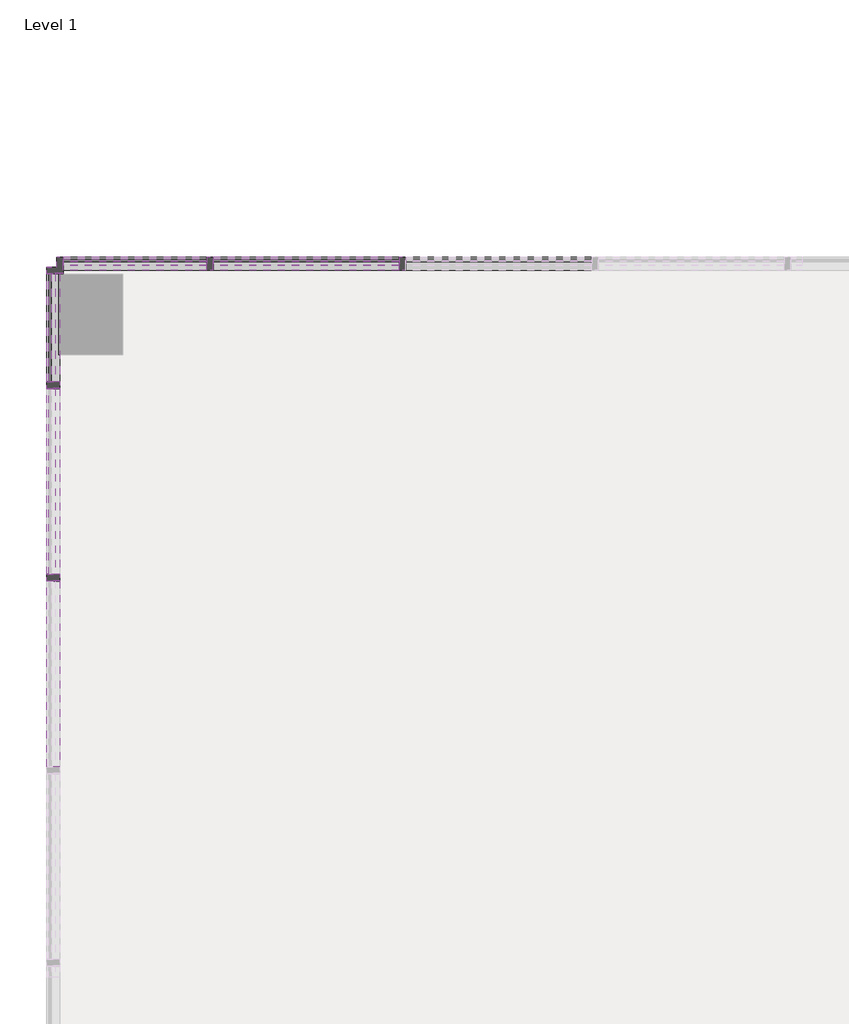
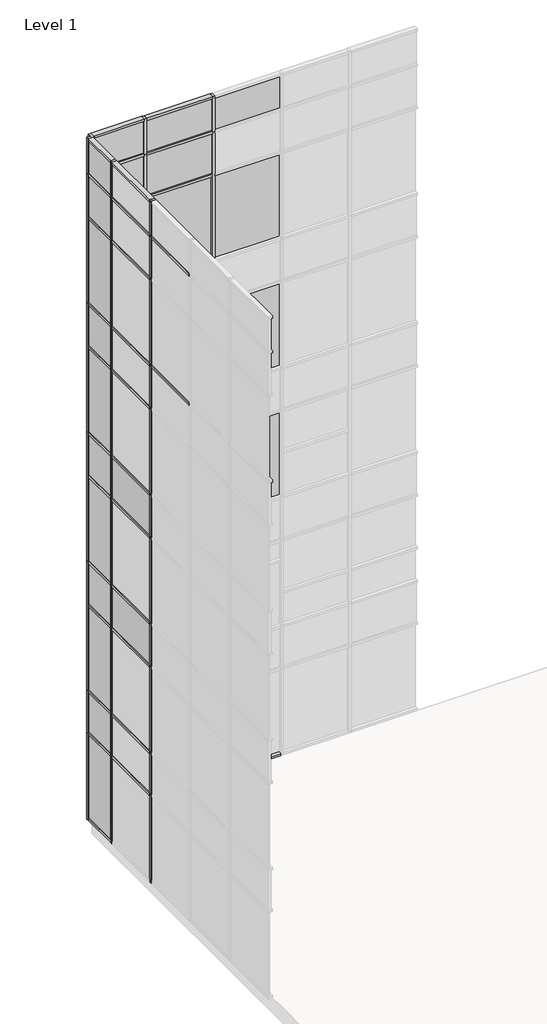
# One storey, part 10 of 23: 84 members, 40 plates.
"""IFC4 building model written with IfcOpenShell, lengths in millimetres."""

from ifc_helpers import new_model, si_unit, origin, place, context, project, spatial, transform, mapped, element, save
from components import member_2b49869a, member_f92b8aa2, member_810865a4, member_f0fea5a5, member_6d5c3e5e, member_9764dd38, member_79ceace6, member_b5f2627a, member_2a656dd3, member_4a582d1b, member_69e02c7a, member_ea83204a, member_2d9278dd, member_12374bc9, system_panel_glazed_14c75400, system_panel_glazed_7d142148, system_panel_glazed_725bf07f, system_panel_glazed_cda0cb40, system_panel_glazed_3870392c, system_panel_solid_5dfe6f83, system_panel_solid_e25e2004, system_panel_solid_b7551183, system_panel_solid_743f3f24, system_panel_solid_cf5446f1, system_panel_solid_9f856546, system_panel_solid_5118485c, system_panel_solid_8dfd6666, system_panel_solid_bf438204

model = new_model("IFC4")

# Units and contexts
model_context = context("Model", 3, world=origin())
ifc_project = project(units=[si_unit("LENGTHUNIT", "METRE", prefix="MILLI")], contexts=[model_context])

# Site, building, storey
site = spatial("IfcSite", under=ifc_project)
building = spatial("IfcBuilding", under=site)
storey = spatial("IfcBuildingStorey", under=building, Name="Level 1", Elevation=0.0)

# Members
placement = place(None, origin())
member_shape = member_2b49869a(model_context)
element("IfcMember", 1, ObjectType="Rectangular Mullion : 2.5\" x 5\" rectangular", at=placement, inside=storey, context=model_context, shape_type="MappedRepresentation", body=[
    mapped(member_shape, transform((-65405.8623649, 10017.7896508, 2438.4), x_axis=(1.0, 0.0, 0.0), y_axis=(0.0, -1.0, 0.0), z_axis=(0.0, 0.0, -1.0))),
])
element("IfcMember", 2, ObjectType="Rectangular Mullion : 2.5\" x 5\" rectangular", at=placement, inside=storey, context=model_context, shape_type="MappedRepresentation", body=[
    mapped(member_shape, transform((-67234.6623649, 10017.7896508, 2438.4), x_axis=(1.0, 0.0, 0.0), y_axis=(0.0, -1.0, 0.0), z_axis=(0.0, 0.0, -1.0))),
])
member_2_shape = member_f92b8aa2(model_context)
element("IfcMember", 3, ObjectType="Rectangular Mullion : 2.5\" x 5\" rectangular", at=placement, inside=storey, context=model_context, shape_type="MappedRepresentation", body=[
    mapped(member_2_shape, transform((-65405.8623649, 10017.7896508, 18288.0), x_axis=(1.0, 0.0, 0.0), y_axis=(0.0, -1.0, 0.0), z_axis=(0.0, 0.0, -1.0))),
])
element("IfcMember", 4, ObjectType="Rectangular Mullion : 2.5\" x 5\" rectangular", at=placement, inside=storey, context=model_context, shape_type="MappedRepresentation", body=[
    mapped(member_2_shape, transform((-67234.6623649, 10017.7896508, 18288.0), x_axis=(1.0, 0.0, 0.0), y_axis=(0.0, -1.0, 0.0), z_axis=(0.0, 0.0, -1.0))),
])
element("IfcMember", 5, ObjectType="Rectangular Mullion : 2.5\" x 5\" rectangular", at=placement, inside=storey, context=model_context, shape_type="MappedRepresentation", body=[
    mapped(member_2_shape, transform((-68724.2599961, 7033.2896508, 18288.0), x_axis=(0.0, 1.0, 0.0), y_axis=(1.0, 0.0, 0.0), z_axis=(0.0, 0.0, -1.0))),
])
element("IfcMember", 6, ObjectType="Rectangular Mullion : 2.5\" x 5\" rectangular", at=placement, inside=storey, context=model_context, shape_type="MappedRepresentation", body=[
    mapped(member_2_shape, transform((-68724.2599961, 8862.0896508, 18288.0), x_axis=(0.0, 1.0, 0.0), y_axis=(1.0, 0.0, 0.0), z_axis=(0.0, 0.0, -1.0))),
])
member_3_shape = member_810865a4(model_context)
element("IfcMember", 7, ObjectType="Rectangular Mullion : 2.5\" x 5\" rectangular", at=placement, inside=storey, context=model_context, shape_type="MappedRepresentation", body=[
    mapped(member_3_shape, transform((-65405.8623649, 10017.7896508, 14630.4), x_axis=(1.0, 0.0, 0.0), y_axis=(0.0, -1.0, 0.0), z_axis=(0.0, 0.0, -1.0))),
])
element("IfcMember", 8, ObjectType="Rectangular Mullion : 2.5\" x 5\" rectangular", at=placement, inside=storey, context=model_context, shape_type="MappedRepresentation", body=[
    mapped(member_3_shape, transform((-65405.8623649, 10017.7896508, 10972.8), x_axis=(1.0, 0.0, 0.0), y_axis=(0.0, -1.0, 0.0), z_axis=(0.0, 0.0, -1.0))),
])
element("IfcMember", 9, ObjectType="Rectangular Mullion : 2.5\" x 5\" rectangular", at=placement, inside=storey, context=model_context, shape_type="MappedRepresentation", body=[
    mapped(member_3_shape, transform((-65405.8623649, 10017.7896508, 7315.2), x_axis=(1.0, 0.0, 0.0), y_axis=(0.0, -1.0, 0.0), z_axis=(0.0, 0.0, -1.0))),
])
element("IfcMember", 10, ObjectType="Rectangular Mullion : 2.5\" x 5\" rectangular", at=placement, inside=storey, context=model_context, shape_type="MappedRepresentation", body=[
    mapped(member_3_shape, transform((-65405.8623649, 10017.7896508, 3657.6), x_axis=(1.0, 0.0, 0.0), y_axis=(0.0, -1.0, 0.0), z_axis=(0.0, 0.0, -1.0))),
])
element("IfcMember", 11, ObjectType="Rectangular Mullion : 2.5\" x 5\" rectangular", at=placement, inside=storey, context=model_context, shape_type="MappedRepresentation", body=[
    mapped(member_3_shape, transform((-67234.6623649, 10017.7896508, 14630.4), x_axis=(1.0, 0.0, 0.0), y_axis=(0.0, -1.0, 0.0), z_axis=(0.0, 0.0, -1.0))),
])
element("IfcMember", 12, ObjectType="Rectangular Mullion : 2.5\" x 5\" rectangular", at=placement, inside=storey, context=model_context, shape_type="MappedRepresentation", body=[
    mapped(member_3_shape, transform((-67234.6623649, 10017.7896508, 10972.8), x_axis=(1.0, 0.0, 0.0), y_axis=(0.0, -1.0, 0.0), z_axis=(0.0, 0.0, -1.0))),
])
element("IfcMember", 13, ObjectType="Rectangular Mullion : 2.5\" x 5\" rectangular", at=placement, inside=storey, context=model_context, shape_type="MappedRepresentation", body=[
    mapped(member_3_shape, transform((-67234.6623649, 10017.7896508, 7315.2), x_axis=(1.0, 0.0, 0.0), y_axis=(0.0, -1.0, 0.0), z_axis=(0.0, 0.0, -1.0))),
])
element("IfcMember", 14, ObjectType="Rectangular Mullion : 2.5\" x 5\" rectangular", at=placement, inside=storey, context=model_context, shape_type="MappedRepresentation", body=[
    mapped(member_3_shape, transform((-67234.6623649, 10017.7896508, 3657.6), x_axis=(1.0, 0.0, 0.0), y_axis=(0.0, -1.0, 0.0), z_axis=(0.0, 0.0, -1.0))),
])
element("IfcMember", 15, ObjectType="Rectangular Mullion : 2.5\" x 5\" rectangular", at=placement, inside=storey, context=model_context, shape_type="MappedRepresentation", body=[
    mapped(member_3_shape, transform((-68724.2599961, 7033.2896508, 3657.6), x_axis=(0.0, 1.0, 0.0), y_axis=(1.0, 0.0, 0.0), z_axis=(0.0, 0.0, -1.0))),
])
element("IfcMember", 16, ObjectType="Rectangular Mullion : 2.5\" x 5\" rectangular", at=placement, inside=storey, context=model_context, shape_type="MappedRepresentation", body=[
    mapped(member_3_shape, transform((-68724.2599961, 8862.0896508, 3657.6), x_axis=(0.0, 1.0, 0.0), y_axis=(1.0, 0.0, 0.0), z_axis=(0.0, 0.0, -1.0))),
])
element("IfcMember", 17, ObjectType="Rectangular Mullion : 2.5\" x 5\" rectangular", at=placement, inside=storey, context=model_context, shape_type="MappedRepresentation", body=[
    mapped(member_3_shape, transform((-68724.2599961, 7033.2896508, 7315.2), x_axis=(0.0, 1.0, 0.0), y_axis=(1.0, 0.0, 0.0), z_axis=(0.0, 0.0, -1.0))),
])
element("IfcMember", 18, ObjectType="Rectangular Mullion : 2.5\" x 5\" rectangular", at=placement, inside=storey, context=model_context, shape_type="MappedRepresentation", body=[
    mapped(member_3_shape, transform((-68724.2599961, 8862.0896508, 7315.2), x_axis=(0.0, 1.0, 0.0), y_axis=(1.0, 0.0, 0.0), z_axis=(0.0, 0.0, -1.0))),
])
element("IfcMember", 19, ObjectType="Rectangular Mullion : 2.5\" x 5\" rectangular", at=placement, inside=storey, context=model_context, shape_type="MappedRepresentation", body=[
    mapped(member_3_shape, transform((-68724.2599961, 7033.2896508, 10972.8), x_axis=(0.0, 1.0, 0.0), y_axis=(1.0, 0.0, 0.0), z_axis=(0.0, 0.0, -1.0))),
])
element("IfcMember", 20, ObjectType="Rectangular Mullion : 2.5\" x 5\" rectangular", at=placement, inside=storey, context=model_context, shape_type="MappedRepresentation", body=[
    mapped(member_3_shape, transform((-68724.2599961, 8862.0896508, 10972.8), x_axis=(0.0, 1.0, 0.0), y_axis=(1.0, 0.0, 0.0), z_axis=(0.0, 0.0, -1.0))),
])
element("IfcMember", 21, ObjectType="Rectangular Mullion : 2.5\" x 5\" rectangular", at=placement, inside=storey, context=model_context, shape_type="MappedRepresentation", body=[
    mapped(member_3_shape, transform((-68724.2599961, 7033.2896508, 14630.4), x_axis=(0.0, 1.0, 0.0), y_axis=(1.0, 0.0, 0.0), z_axis=(0.0, 0.0, -1.0))),
])
element("IfcMember", 22, ObjectType="Rectangular Mullion : 2.5\" x 5\" rectangular", at=placement, inside=storey, context=model_context, shape_type="MappedRepresentation", body=[
    mapped(member_3_shape, transform((-68724.2599961, 8862.0896508, 14630.4), x_axis=(0.0, 1.0, 0.0), y_axis=(1.0, 0.0, 0.0), z_axis=(0.0, 0.0, -1.0))),
])
member_4_shape = member_f0fea5a5(model_context)
element("IfcMember", 23, ObjectType="Rectangular Mullion : 2.5\" x 5\" rectangular", at=placement, inside=storey, context=model_context, shape_type="MappedRepresentation", body=[
    mapped(member_4_shape, transform((-65405.8623649, 10017.7896508, 0.0), x_axis=(1.0, 0.0, 0.0), y_axis=(0.0, -1.0, 0.0), z_axis=(0.0, 0.0, -1.0))),
])
element("IfcMember", 24, ObjectType="Rectangular Mullion : 2.5\" x 5\" rectangular", at=placement, inside=storey, context=model_context, shape_type="MappedRepresentation", body=[
    mapped(member_4_shape, transform((-67234.6623649, 10017.7896508, 0.0), x_axis=(1.0, 0.0, 0.0), y_axis=(0.0, -1.0, 0.0), z_axis=(0.0, 0.0, -1.0))),
])
member_5_shape = member_6d5c3e5e(model_context)
element("IfcMember", 25, ObjectType="Rectangular Mullion : 2.5\" x 5\" rectangular", at=placement, inside=storey, context=model_context, shape_type="MappedRepresentation", body=[
    mapped(member_5_shape, transform((-65437.6123649, 10017.7896508, 19304.0), x_axis=(0.0, 0.0, 1.0), y_axis=(0.0, -1.0, 0.0), z_axis=(1.0, 0.0, 0.0))),
])
element("IfcMember", 26, ObjectType="Rectangular Mullion : 2.5\" x 5\" rectangular", at=placement, inside=storey, context=model_context, shape_type="MappedRepresentation", body=[
    mapped(member_5_shape, transform((-68724.2599961, 8830.3396508, 19304.0), x_axis=(0.0, 0.0, 1.0), y_axis=(1.0, 0.0, 0.0), z_axis=(0.0, 1.0, 0.0))),
])
member_6_shape = member_9764dd38(model_context)
element("IfcMember", 27, ObjectType="Rectangular Mullion : 2.5\" x 5\" rectangular", at=placement, inside=storey, context=model_context, shape_type="MappedRepresentation", body=[
    mapped(member_6_shape, transform((-65437.6123649, 10017.7896508, 17068.8), x_axis=(0.0, 0.0, 1.0), y_axis=(0.0, -1.0, 0.0), z_axis=(1.0, 0.0, 0.0))),
])
element("IfcMember", 28, ObjectType="Rectangular Mullion : 2.5\" x 5\" rectangular", at=placement, inside=storey, context=model_context, shape_type="MappedRepresentation", body=[
    mapped(member_6_shape, transform((-65437.6123649, 10017.7896508, 13411.2), x_axis=(0.0, 0.0, 1.0), y_axis=(0.0, -1.0, 0.0), z_axis=(1.0, 0.0, 0.0))),
])
element("IfcMember", 29, ObjectType="Rectangular Mullion : 2.5\" x 5\" rectangular", at=placement, inside=storey, context=model_context, shape_type="MappedRepresentation", body=[
    mapped(member_6_shape, transform((-65437.6123649, 10017.7896508, 9753.6), x_axis=(0.0, 0.0, 1.0), y_axis=(0.0, -1.0, 0.0), z_axis=(1.0, 0.0, 0.0))),
])
element("IfcMember", 30, ObjectType="Rectangular Mullion : 2.5\" x 5\" rectangular", at=placement, inside=storey, context=model_context, shape_type="MappedRepresentation", body=[
    mapped(member_6_shape, transform((-65437.6123649, 10017.7896508, 6096.0), x_axis=(0.0, 0.0, 1.0), y_axis=(0.0, -1.0, 0.0), z_axis=(1.0, 0.0, 0.0))),
])
element("IfcMember", 31, ObjectType="Rectangular Mullion : 2.5\" x 5\" rectangular", at=placement, inside=storey, context=model_context, shape_type="MappedRepresentation", body=[
    mapped(member_6_shape, transform((-65437.6123649, 10017.7896508, 2470.15), x_axis=(0.0, 0.0, 1.0), y_axis=(0.0, -1.0, 0.0), z_axis=(1.0, 0.0, 0.0))),
])
element("IfcMember", 32, ObjectType="Rectangular Mullion : 2.5\" x 5\" rectangular", at=placement, inside=storey, context=model_context, shape_type="MappedRepresentation", body=[
    mapped(member_6_shape, transform((-68724.2599961, 8830.3396508, 17068.8), x_axis=(0.0, 0.0, 1.0), y_axis=(1.0, 0.0, 0.0), z_axis=(0.0, 1.0, 0.0))),
])
element("IfcMember", 33, ObjectType="Rectangular Mullion : 2.5\" x 5\" rectangular", at=placement, inside=storey, context=model_context, shape_type="MappedRepresentation", body=[
    mapped(member_6_shape, transform((-68724.2599961, 8830.3396508, 13411.2), x_axis=(0.0, 0.0, 1.0), y_axis=(1.0, 0.0, 0.0), z_axis=(0.0, 1.0, 0.0))),
])
element("IfcMember", 34, ObjectType="Rectangular Mullion : 2.5\" x 5\" rectangular", at=placement, inside=storey, context=model_context, shape_type="MappedRepresentation", body=[
    mapped(member_6_shape, transform((-68724.2599961, 8830.3396508, 9753.6), x_axis=(0.0, 0.0, 1.0), y_axis=(1.0, 0.0, 0.0), z_axis=(0.0, 1.0, 0.0))),
])
element("IfcMember", 35, ObjectType="Rectangular Mullion : 2.5\" x 5\" rectangular", at=placement, inside=storey, context=model_context, shape_type="MappedRepresentation", body=[
    mapped(member_6_shape, transform((-68724.2599961, 8830.3396508, 6096.0), x_axis=(0.0, 0.0, 1.0), y_axis=(1.0, 0.0, 0.0), z_axis=(0.0, 1.0, 0.0))),
])
element("IfcMember", 36, ObjectType="Rectangular Mullion : 2.5\" x 5\" rectangular", at=placement, inside=storey, context=model_context, shape_type="MappedRepresentation", body=[
    mapped(member_6_shape, transform((-68724.2599961, 8830.3396508, 2470.15), x_axis=(0.0, 0.0, 1.0), y_axis=(1.0, 0.0, 0.0), z_axis=(0.0, 1.0, 0.0))),
])
element("IfcMember", 37, ObjectType="Rectangular Mullion : 2.5\" x 5\" rectangular", at=placement, inside=storey, context=model_context, shape_type="MappedRepresentation", body=[
    mapped(member_6_shape, transform((-65437.6123649, 10017.7896508, 4603.75), x_axis=(0.0, 0.0, 1.0), y_axis=(0.0, -1.0, 0.0), z_axis=(1.0, 0.0, 0.0))),
])
element("IfcMember", 38, ObjectType="Rectangular Mullion : 2.5\" x 5\" rectangular", at=placement, inside=storey, context=model_context, shape_type="MappedRepresentation", body=[
    mapped(member_3_shape, transform((-68724.2599961, 7033.2896508, 0.0), x_axis=(0.0, 1.0, 0.0), y_axis=(1.0, 0.0, 0.0), z_axis=(0.0, 0.0, -1.0))),
])
element("IfcMember", 39, ObjectType="Rectangular Mullion : 2.5\" x 5\" rectangular", at=placement, inside=storey, context=model_context, shape_type="MappedRepresentation", body=[
    mapped(member_3_shape, transform((-68724.2599961, 8862.0896508, 0.0), x_axis=(0.0, 1.0, 0.0), y_axis=(1.0, 0.0, 0.0), z_axis=(0.0, 0.0, -1.0))),
])
element("IfcMember", 40, ObjectType="Rectangular Mullion : 2.5\" x 5\" rectangular", at=placement, inside=storey, context=model_context, shape_type="MappedRepresentation", body=[
    mapped(member_5_shape, transform((-65374.1123649, 10017.7896508, 0.0), x_axis=(0.0, 0.0, -1.0), y_axis=(0.0, -1.0, 0.0), z_axis=(-1.0, 0.0, 0.0))),
])
element("IfcMember", 41, ObjectType="Rectangular Mullion : 2.5\" x 5\" rectangular", at=placement, inside=storey, context=model_context, shape_type="MappedRepresentation", body=[
    mapped(member_5_shape, transform((-67202.9123649, 10017.7896508, 0.0), x_axis=(0.0, 0.0, -1.0), y_axis=(0.0, -1.0, 0.0), z_axis=(-1.0, 0.0, 0.0))),
])
element("IfcMember", 42, ObjectType="Rectangular Mullion : 2.5\" x 5\" rectangular", at=placement, inside=storey, context=model_context, shape_type="MappedRepresentation", body=[
    mapped(member_6_shape, transform((-65437.6123649, 10017.7896508, 10972.8), x_axis=(0.0, 0.0, 1.0), y_axis=(0.0, -1.0, 0.0), z_axis=(1.0, 0.0, 0.0))),
])
element("IfcMember", 43, ObjectType="Rectangular Mullion : 2.5\" x 5\" rectangular", at=placement, inside=storey, context=model_context, shape_type="MappedRepresentation", body=[
    mapped(member_6_shape, transform((-65437.6123649, 10017.7896508, 7315.2), x_axis=(0.0, 0.0, 1.0), y_axis=(0.0, -1.0, 0.0), z_axis=(1.0, 0.0, 0.0))),
])
element("IfcMember", 44, ObjectType="Rectangular Mullion : 2.5\" x 5\" rectangular", at=placement, inside=storey, context=model_context, shape_type="MappedRepresentation", body=[
    mapped(member_6_shape, transform((-65437.6123649, 10017.7896508, 18288.0), x_axis=(0.0, 0.0, 1.0), y_axis=(0.0, -1.0, 0.0), z_axis=(1.0, 0.0, 0.0))),
])
element("IfcMember", 45, ObjectType="Rectangular Mullion : 2.5\" x 5\" rectangular", at=placement, inside=storey, context=model_context, shape_type="MappedRepresentation", body=[
    mapped(member_6_shape, transform((-65437.6123649, 10017.7896508, 14630.4), x_axis=(0.0, 0.0, 1.0), y_axis=(0.0, -1.0, 0.0), z_axis=(1.0, 0.0, 0.0))),
])
element("IfcMember", 46, ObjectType="Rectangular Mullion : 2.5\" x 5\" rectangular", at=placement, inside=storey, context=model_context, shape_type="MappedRepresentation", body=[
    mapped(member_6_shape, transform((-65437.6123649, 10017.7896508, 3657.6), x_axis=(0.0, 0.0, 1.0), y_axis=(0.0, -1.0, 0.0), z_axis=(1.0, 0.0, 0.0))),
])
element("IfcMember", 47, ObjectType="Rectangular Mullion : 2.5\" x 5\" rectangular", at=placement, inside=storey, context=model_context, shape_type="MappedRepresentation", body=[
    mapped(member_6_shape, transform((-68724.2599961, 8830.3396508, 3657.6), x_axis=(0.0, 0.0, 1.0), y_axis=(1.0, 0.0, 0.0), z_axis=(0.0, 1.0, 0.0))),
])
element("IfcMember", 48, ObjectType="Rectangular Mullion : 2.5\" x 5\" rectangular", at=placement, inside=storey, context=model_context, shape_type="MappedRepresentation", body=[
    mapped(member_6_shape, transform((-68724.2599961, 8830.3396508, 7315.2), x_axis=(0.0, 0.0, 1.0), y_axis=(1.0, 0.0, 0.0), z_axis=(0.0, 1.0, 0.0))),
])
element("IfcMember", 49, ObjectType="Rectangular Mullion : 2.5\" x 5\" rectangular", at=placement, inside=storey, context=model_context, shape_type="MappedRepresentation", body=[
    mapped(member_6_shape, transform((-68724.2599961, 8830.3396508, 10972.8), x_axis=(0.0, 0.0, 1.0), y_axis=(1.0, 0.0, 0.0), z_axis=(0.0, 1.0, 0.0))),
])
element("IfcMember", 50, ObjectType="Rectangular Mullion : 2.5\" x 5\" rectangular", at=placement, inside=storey, context=model_context, shape_type="MappedRepresentation", body=[
    mapped(member_6_shape, transform((-68724.2599961, 7001.5396508, 14630.4), x_axis=(0.0, 0.0, 1.0), y_axis=(1.0, 0.0, 0.0), z_axis=(0.0, 1.0, 0.0))),
])
element("IfcMember", 51, ObjectType="Rectangular Mullion : 2.5\" x 5\" rectangular", at=placement, inside=storey, context=model_context, shape_type="MappedRepresentation", body=[
    mapped(member_6_shape, transform((-68724.2599961, 8830.3396508, 14630.4), x_axis=(0.0, 0.0, 1.0), y_axis=(1.0, 0.0, 0.0), z_axis=(0.0, 1.0, 0.0))),
])
element("IfcMember", 52, ObjectType="Rectangular Mullion : 2.5\" x 5\" rectangular", at=placement, inside=storey, context=model_context, shape_type="MappedRepresentation", body=[
    mapped(member_6_shape, transform((-68724.2599961, 7001.5396508, 18288.0), x_axis=(0.0, 0.0, 1.0), y_axis=(1.0, 0.0, 0.0), z_axis=(0.0, 1.0, 0.0))),
])
element("IfcMember", 53, ObjectType="Rectangular Mullion : 2.5\" x 5\" rectangular", at=placement, inside=storey, context=model_context, shape_type="MappedRepresentation", body=[
    mapped(member_6_shape, transform((-68724.2599961, 8830.3396508, 18288.0), x_axis=(0.0, 0.0, 1.0), y_axis=(1.0, 0.0, 0.0), z_axis=(0.0, 1.0, 0.0))),
])
member_7_shape = member_79ceace6(model_context)
element("IfcMember", 54, ObjectType="Rectangular Mullion : 2.5\" x 5\" rectangular", at=placement, inside=storey, context=model_context, shape_type="MappedRepresentation", body=[
    mapped(member_7_shape, transform((-68724.2599961, 9922.5396508, 19304.0), x_axis=(0.0, 0.0, 1.0), y_axis=(1.0, 0.0, 0.0), z_axis=(0.0, 1.0, 0.0))),
])
element("IfcMember", 55, ObjectType="Rectangular Mullion : 2.5\" x 5\" rectangular", at=placement, inside=storey, context=model_context, shape_type="MappedRepresentation", body=[
    mapped(member_7_shape, transform((-68724.2599961, 8893.8396508, 0.0), x_axis=(0.0, 0.0, -1.0), y_axis=(1.0, 0.0, 0.0), z_axis=(0.0, -1.0, 0.0))),
])
member_8_shape = member_b5f2627a(model_context)
element("IfcMember", 56, ObjectType="Rectangular Mullion : 2.5\" x 5\" rectangular", at=placement, inside=storey, context=model_context, shape_type="MappedRepresentation", body=[
    mapped(member_8_shape, transform((-68724.2599961, 9922.5396508, 3657.6), x_axis=(0.0, 0.0, 1.0), y_axis=(1.0, 0.0, 0.0), z_axis=(0.0, 1.0, 0.0))),
])
element("IfcMember", 57, ObjectType="Rectangular Mullion : 2.5\" x 5\" rectangular", at=placement, inside=storey, context=model_context, shape_type="MappedRepresentation", body=[
    mapped(member_8_shape, transform((-68724.2599961, 9922.5396508, 7315.2), x_axis=(0.0, 0.0, 1.0), y_axis=(1.0, 0.0, 0.0), z_axis=(0.0, 1.0, 0.0))),
])
element("IfcMember", 58, ObjectType="Rectangular Mullion : 2.5\" x 5\" rectangular", at=placement, inside=storey, context=model_context, shape_type="MappedRepresentation", body=[
    mapped(member_8_shape, transform((-68724.2599961, 9922.5396508, 10972.8), x_axis=(0.0, 0.0, 1.0), y_axis=(1.0, 0.0, 0.0), z_axis=(0.0, 1.0, 0.0))),
])
element("IfcMember", 59, ObjectType="Rectangular Mullion : 2.5\" x 5\" rectangular", at=placement, inside=storey, context=model_context, shape_type="MappedRepresentation", body=[
    mapped(member_8_shape, transform((-68724.2599961, 9922.5396508, 14630.4), x_axis=(0.0, 0.0, 1.0), y_axis=(1.0, 0.0, 0.0), z_axis=(0.0, 1.0, 0.0))),
])
element("IfcMember", 60, ObjectType="Rectangular Mullion : 2.5\" x 5\" rectangular", at=placement, inside=storey, context=model_context, shape_type="MappedRepresentation", body=[
    mapped(member_8_shape, transform((-68724.2599961, 9922.5396508, 18288.0), x_axis=(0.0, 0.0, 1.0), y_axis=(1.0, 0.0, 0.0), z_axis=(0.0, 1.0, 0.0))),
])
element("IfcMember", 61, ObjectType="Rectangular Mullion : 2.5\" x 5\" rectangular", at=placement, inside=storey, context=model_context, shape_type="MappedRepresentation", body=[
    mapped(member_8_shape, transform((-68724.2599961, 9922.5396508, 17068.8), x_axis=(0.0, 0.0, 1.0), y_axis=(1.0, 0.0, 0.0), z_axis=(0.0, 1.0, 0.0))),
])
element("IfcMember", 62, ObjectType="Rectangular Mullion : 2.5\" x 5\" rectangular", at=placement, inside=storey, context=model_context, shape_type="MappedRepresentation", body=[
    mapped(member_8_shape, transform((-68724.2599961, 9922.5396508, 13411.2), x_axis=(0.0, 0.0, 1.0), y_axis=(1.0, 0.0, 0.0), z_axis=(0.0, 1.0, 0.0))),
])
element("IfcMember", 63, ObjectType="Rectangular Mullion : 2.5\" x 5\" rectangular", at=placement, inside=storey, context=model_context, shape_type="MappedRepresentation", body=[
    mapped(member_8_shape, transform((-68724.2599961, 9922.5396508, 9753.6), x_axis=(0.0, 0.0, 1.0), y_axis=(1.0, 0.0, 0.0), z_axis=(0.0, 1.0, 0.0))),
])
element("IfcMember", 64, ObjectType="Rectangular Mullion : 2.5\" x 5\" rectangular", at=placement, inside=storey, context=model_context, shape_type="MappedRepresentation", body=[
    mapped(member_8_shape, transform((-68724.2599961, 9922.5396508, 6096.0), x_axis=(0.0, 0.0, 1.0), y_axis=(1.0, 0.0, 0.0), z_axis=(0.0, 1.0, 0.0))),
])
element("IfcMember", 65, ObjectType="Rectangular Mullion : 2.5\" x 5\" rectangular", at=placement, inside=storey, context=model_context, shape_type="MappedRepresentation", body=[
    mapped(member_8_shape, transform((-68724.2599961, 9922.5396508, 2470.15), x_axis=(0.0, 0.0, 1.0), y_axis=(1.0, 0.0, 0.0), z_axis=(0.0, 1.0, 0.0))),
])
member_9_shape = member_2a656dd3(model_context)
element("IfcMember", 66, ObjectType="Rectangular Mullion : 2.5\" x 5\" rectangular", at=placement, inside=storey, context=model_context, shape_type="MappedRepresentation", body=[
    mapped(member_9_shape, transform((-68629.0099961, 10017.7896508, 0.0), x_axis=(0.0, 0.0, -1.0), y_axis=(0.0, -1.0, 0.0), z_axis=(-1.0, 0.0, 0.0))),
])
member_10_shape = member_4a582d1b(model_context)
element("IfcMember", 67, ObjectType="Rectangular Mullion : 2.5\" x 5\" rectangular", at=placement, inside=storey, context=model_context, shape_type="MappedRepresentation", body=[
    mapped(member_10_shape, transform((-67266.4123649, 10017.7896508, 10972.8), x_axis=(0.0, 0.0, 1.0), y_axis=(0.0, -1.0, 0.0), z_axis=(1.0, 0.0, 0.0))),
])
element("IfcMember", 68, ObjectType="Rectangular Mullion : 2.5\" x 5\" rectangular", at=placement, inside=storey, context=model_context, shape_type="MappedRepresentation", body=[
    mapped(member_10_shape, transform((-67266.4123649, 10017.7896508, 14630.4), x_axis=(0.0, 0.0, 1.0), y_axis=(0.0, -1.0, 0.0), z_axis=(1.0, 0.0, 0.0))),
])
element("IfcMember", 69, ObjectType="Rectangular Mullion : 2.5\" x 5\" rectangular", at=placement, inside=storey, context=model_context, shape_type="MappedRepresentation", body=[
    mapped(member_10_shape, transform((-67266.4123649, 10017.7896508, 7315.2), x_axis=(0.0, 0.0, 1.0), y_axis=(0.0, -1.0, 0.0), z_axis=(1.0, 0.0, 0.0))),
])
element("IfcMember", 70, ObjectType="Rectangular Mullion : 2.5\" x 5\" rectangular", at=placement, inside=storey, context=model_context, shape_type="MappedRepresentation", body=[
    mapped(member_10_shape, transform((-67266.4123649, 10017.7896508, 18288.0), x_axis=(0.0, 0.0, 1.0), y_axis=(0.0, -1.0, 0.0), z_axis=(1.0, 0.0, 0.0))),
])
element("IfcMember", 71, ObjectType="Rectangular Mullion : 2.5\" x 5\" rectangular", at=placement, inside=storey, context=model_context, shape_type="MappedRepresentation", body=[
    mapped(member_10_shape, transform((-67266.4123649, 10017.7896508, 3657.6), x_axis=(0.0, 0.0, 1.0), y_axis=(0.0, -1.0, 0.0), z_axis=(1.0, 0.0, 0.0))),
])
element("IfcMember", 72, ObjectType="Rectangular Mullion : 2.5\" x 5\" rectangular", at=placement, inside=storey, context=model_context, shape_type="MappedRepresentation", body=[
    mapped(member_9_shape, transform((-67266.4123649, 10017.7896508, 19304.0), x_axis=(0.0, 0.0, 1.0), y_axis=(0.0, -1.0, 0.0), z_axis=(1.0, 0.0, 0.0))),
])
element("IfcMember", 73, ObjectType="Rectangular Mullion : 2.5\" x 5\" rectangular", at=placement, inside=storey, context=model_context, shape_type="MappedRepresentation", body=[
    mapped(member_10_shape, transform((-67266.4123649, 10017.7896508, 17068.8), x_axis=(0.0, 0.0, 1.0), y_axis=(0.0, -1.0, 0.0), z_axis=(1.0, 0.0, 0.0))),
])
element("IfcMember", 74, ObjectType="Rectangular Mullion : 2.5\" x 5\" rectangular", at=placement, inside=storey, context=model_context, shape_type="MappedRepresentation", body=[
    mapped(member_10_shape, transform((-67266.4123649, 10017.7896508, 13411.2), x_axis=(0.0, 0.0, 1.0), y_axis=(0.0, -1.0, 0.0), z_axis=(1.0, 0.0, 0.0))),
])
element("IfcMember", 75, ObjectType="Rectangular Mullion : 2.5\" x 5\" rectangular", at=placement, inside=storey, context=model_context, shape_type="MappedRepresentation", body=[
    mapped(member_10_shape, transform((-67266.4123649, 10017.7896508, 9753.6), x_axis=(0.0, 0.0, 1.0), y_axis=(0.0, -1.0, 0.0), z_axis=(1.0, 0.0, 0.0))),
])
element("IfcMember", 76, ObjectType="Rectangular Mullion : 2.5\" x 5\" rectangular", at=placement, inside=storey, context=model_context, shape_type="MappedRepresentation", body=[
    mapped(member_10_shape, transform((-67266.4123649, 10017.7896508, 6096.0), x_axis=(0.0, 0.0, 1.0), y_axis=(0.0, -1.0, 0.0), z_axis=(1.0, 0.0, 0.0))),
])
element("IfcMember", 77, ObjectType="Rectangular Mullion : 2.5\" x 5\" rectangular", at=placement, inside=storey, context=model_context, shape_type="MappedRepresentation", body=[
    mapped(member_10_shape, transform((-67266.4123649, 10017.7896508, 2470.15), x_axis=(0.0, 0.0, 1.0), y_axis=(0.0, -1.0, 0.0), z_axis=(1.0, 0.0, 0.0))),
])
member_11_shape = member_69e02c7a(model_context)
element("IfcMember", 78, ObjectType="V Corner Mullion : 5\" V Corner", at=placement, inside=storey, context=model_context, shape_type="MappedRepresentation", body=[
    mapped(member_11_shape, transform((-68724.2599961, 10017.7896508, 19304.0), x_axis=(-1.0, 0.0, 0.0), y_axis=(0.0, -1.0, 0.0), z_axis=(0.0, 0.0, 1.0))),
])
member_12_shape = member_ea83204a(model_context)
element("IfcMember", 79, ObjectType="V Corner Mullion : 5\" V Corner", at=placement, inside=storey, context=model_context, shape_type="MappedRepresentation", body=[
    mapped(member_12_shape, transform((-68724.2599961, 10017.7896508, 2438.4), x_axis=(-1.0, 0.0, 0.0), y_axis=(0.0, -1.0, 0.0), z_axis=(0.0, 0.0, 1.0))),
])
member_13_shape = member_2d9278dd(model_context)
element("IfcMember", 80, ObjectType="V Corner Mullion : 5\" V Corner", at=placement, inside=storey, context=model_context, shape_type="MappedRepresentation", body=[
    mapped(member_13_shape, transform((-68724.2599961, 10017.7896508, 18288.0), x_axis=(-1.0, 0.0, 0.0), y_axis=(0.0, -1.0, 0.0), z_axis=(0.0, 0.0, 1.0))),
])
element("IfcMember", 81, ObjectType="V Corner Mullion : 5\" V Corner", at=placement, inside=storey, context=model_context, shape_type="MappedRepresentation", body=[
    mapped(member_13_shape, transform((-68724.2599961, 10017.7896508, 14630.4), x_axis=(-1.0, 0.0, 0.0), y_axis=(0.0, -1.0, 0.0), z_axis=(0.0, 0.0, 1.0))),
])
element("IfcMember", 82, ObjectType="V Corner Mullion : 5\" V Corner", at=placement, inside=storey, context=model_context, shape_type="MappedRepresentation", body=[
    mapped(member_13_shape, transform((-68724.2599961, 10017.7896508, 10972.8), x_axis=(-1.0, 0.0, 0.0), y_axis=(0.0, -1.0, 0.0), z_axis=(0.0, 0.0, 1.0))),
])
element("IfcMember", 83, ObjectType="V Corner Mullion : 5\" V Corner", at=placement, inside=storey, context=model_context, shape_type="MappedRepresentation", body=[
    mapped(member_13_shape, transform((-68724.2599961, 10017.7896508, 7315.2), x_axis=(-1.0, 0.0, 0.0), y_axis=(0.0, -1.0, 0.0), z_axis=(0.0, 0.0, 1.0))),
])
member_14_shape = member_12374bc9(model_context)
element("IfcMember", 84, ObjectType="V Corner Mullion : 5\" V Corner", at=placement, inside=storey, context=model_context, shape_type="MappedRepresentation", body=[
    mapped(member_14_shape, transform((-68724.2599961, 10017.7896508, 3657.6), x_axis=(-1.0, 0.0, 0.0), y_axis=(0.0, -1.0, 0.0), z_axis=(0.0, 0.0, 1.0))),
])

# Plates
system_panel_glazed_shape = system_panel_glazed_14c75400(model_context)
element("IfcPlate", 85, ObjectType="System Panel : Glazed", at=placement, inside=storey, context=model_context, shape_type="MappedRepresentation", body=[
    mapped(system_panel_glazed_shape, transform((-64491.4623649, 10017.7896508, 14662.15), x_axis=(1.0, 0.0, 0.0), y_axis=(0.0, 1.0, 0.0), z_axis=(0.0, 0.0, 1.0))),
])
element("IfcPlate", 86, ObjectType="System Panel : Glazed", at=placement, inside=storey, context=model_context, shape_type="MappedRepresentation", body=[
    mapped(system_panel_glazed_shape, transform((-66320.2623649, 10017.7896508, 14662.15), x_axis=(1.0, 0.0, 0.0), y_axis=(0.0, 1.0, 0.0), z_axis=(0.0, 0.0, 1.0))),
])
element("IfcPlate", 87, ObjectType="System Panel : Glazed", at=placement, inside=storey, context=model_context, shape_type="MappedRepresentation", body=[
    mapped(system_panel_glazed_shape, transform((-64491.4623649, 10017.7896508, 11004.55), x_axis=(1.0, 0.0, 0.0), y_axis=(0.0, 1.0, 0.0), z_axis=(0.0, 0.0, 1.0))),
])
element("IfcPlate", 88, ObjectType="System Panel : Glazed", at=placement, inside=storey, context=model_context, shape_type="MappedRepresentation", body=[
    mapped(system_panel_glazed_shape, transform((-66320.2623649, 10017.7896508, 11004.55), x_axis=(1.0, 0.0, 0.0), y_axis=(0.0, 1.0, 0.0), z_axis=(0.0, 0.0, 1.0))),
])
element("IfcPlate", 89, ObjectType="System Panel : Glazed", at=placement, inside=storey, context=model_context, shape_type="MappedRepresentation", body=[
    mapped(system_panel_glazed_shape, transform((-64491.4623649, 10017.7896508, 7346.95), x_axis=(1.0, 0.0, 0.0), y_axis=(0.0, 1.0, 0.0), z_axis=(0.0, 0.0, 1.0))),
])
element("IfcPlate", 90, ObjectType="System Panel : Glazed", at=placement, inside=storey, context=model_context, shape_type="MappedRepresentation", body=[
    mapped(system_panel_glazed_shape, transform((-66320.2623649, 10017.7896508, 7346.95), x_axis=(1.0, 0.0, 0.0), y_axis=(0.0, 1.0, 0.0), z_axis=(0.0, 0.0, 1.0))),
])
element("IfcPlate", 91, ObjectType="System Panel : Glazed", at=placement, inside=storey, context=model_context, shape_type="MappedRepresentation", body=[
    mapped(system_panel_glazed_shape, transform((-66320.2623649, 10017.7896508, 63.5), x_axis=(1.0, 0.0, 0.0), y_axis=(0.0, 1.0, 0.0), z_axis=(0.0, 0.0, 1.0))),
])
system_panel_glazed_2_shape = system_panel_glazed_7d142148(model_context)
element("IfcPlate", 92, ObjectType="System Panel : Glazed", at=placement, inside=storey, context=model_context, shape_type="MappedRepresentation", body=[
    mapped(system_panel_glazed_2_shape, transform((-66320.2623649, 10017.7896508, 3689.35), x_axis=(1.0, 0.0, 0.0), y_axis=(0.0, 1.0, 0.0), z_axis=(0.0, 0.0, 1.0))),
])
system_panel_glazed_3_shape = system_panel_glazed_725bf07f(model_context)
element("IfcPlate", 93, ObjectType="System Panel : Glazed", at=placement, inside=storey, context=model_context, shape_type="MappedRepresentation", body=[
    mapped(system_panel_glazed_3_shape, transform((-66320.2623649, 10017.7896508, 4635.5), x_axis=(1.0, 0.0, 0.0), y_axis=(0.0, 1.0, 0.0), z_axis=(0.0, 0.0, 1.0))),
])
system_panel_glazed_4_shape = system_panel_glazed_cda0cb40(model_context)
element("IfcPlate", 94, ObjectType="System Panel : Glazed", at=placement, inside=storey, context=model_context, shape_type="MappedRepresentation", body=[
    mapped(system_panel_glazed_4_shape, transform((-68724.2599961, 9408.1896508, 14662.15), x_axis=(0.0, 1.0, 0.0), y_axis=(-1.0, 0.0, 0.0), z_axis=(0.0, 0.0, 1.0))),
])
element("IfcPlate", 95, ObjectType="System Panel : Glazed", at=placement, inside=storey, context=model_context, shape_type="MappedRepresentation", body=[
    mapped(system_panel_glazed_4_shape, transform((-68724.2599961, 9408.1896508, 11004.55), x_axis=(0.0, 1.0, 0.0), y_axis=(-1.0, 0.0, 0.0), z_axis=(0.0, 0.0, 1.0))),
])
element("IfcPlate", 96, ObjectType="System Panel : Glazed", at=placement, inside=storey, context=model_context, shape_type="MappedRepresentation", body=[
    mapped(system_panel_glazed_4_shape, transform((-68724.2599961, 9408.1896508, 7346.95), x_axis=(0.0, 1.0, 0.0), y_axis=(-1.0, 0.0, 0.0), z_axis=(0.0, 0.0, 1.0))),
])
element("IfcPlate", 97, ObjectType="System Panel : Glazed", at=placement, inside=storey, context=model_context, shape_type="MappedRepresentation", body=[
    mapped(system_panel_glazed_4_shape, transform((-68724.2599961, 9408.1896508, 3689.35), x_axis=(0.0, 1.0, 0.0), y_axis=(-1.0, 0.0, 0.0), z_axis=(0.0, 0.0, 1.0))),
])
element("IfcPlate", 98, ObjectType="System Panel : Glazed", at=placement, inside=storey, context=model_context, shape_type="MappedRepresentation", body=[
    mapped(system_panel_glazed_4_shape, transform((-68724.2599961, 9408.1896508, 63.5), x_axis=(0.0, 1.0, 0.0), y_axis=(-1.0, 0.0, 0.0), z_axis=(0.0, 0.0, 1.0))),
])
system_panel_glazed_5_shape = system_panel_glazed_3870392c(model_context)
element("IfcPlate", 99, ObjectType="System Panel : Glazed", at=placement, inside=storey, context=model_context, shape_type="MappedRepresentation", body=[
    mapped(system_panel_glazed_5_shape, transform((-67947.7111805, 10017.7896508, 14662.15), x_axis=(1.0, 0.0, 0.0), y_axis=(0.0, 1.0, 0.0), z_axis=(0.0, 0.0, 1.0))),
])
element("IfcPlate", 100, ObjectType="System Panel : Glazed", at=placement, inside=storey, context=model_context, shape_type="MappedRepresentation", body=[
    mapped(system_panel_glazed_5_shape, transform((-67947.7111805, 10017.7896508, 11004.55), x_axis=(1.0, 0.0, 0.0), y_axis=(0.0, 1.0, 0.0), z_axis=(0.0, 0.0, 1.0))),
])
element("IfcPlate", 101, ObjectType="System Panel : Glazed", at=placement, inside=storey, context=model_context, shape_type="MappedRepresentation", body=[
    mapped(system_panel_glazed_5_shape, transform((-67947.7111805, 10017.7896508, 7346.95), x_axis=(1.0, 0.0, 0.0), y_axis=(0.0, 1.0, 0.0), z_axis=(0.0, 0.0, 1.0))),
])
element("IfcPlate", 102, ObjectType="System Panel : Glazed", at=placement, inside=storey, context=model_context, shape_type="MappedRepresentation", body=[
    mapped(system_panel_glazed_5_shape, transform((-67947.7111805, 10017.7896508, 3689.35), x_axis=(1.0, 0.0, 0.0), y_axis=(0.0, 1.0, 0.0), z_axis=(0.0, 0.0, 1.0))),
])
element("IfcPlate", 103, ObjectType="System Panel : Glazed", at=placement, inside=storey, context=model_context, shape_type="MappedRepresentation", body=[
    mapped(system_panel_glazed_5_shape, transform((-67947.7111805, 10017.7896508, 63.5), x_axis=(1.0, 0.0, 0.0), y_axis=(0.0, 1.0, 0.0), z_axis=(0.0, 0.0, 1.0))),
])
system_panel_solid_shape = system_panel_solid_5dfe6f83(model_context)
element("IfcPlate", 104, ObjectType="System Panel : Solid", at=placement, inside=storey, context=model_context, shape_type="MappedRepresentation", body=[
    mapped(system_panel_solid_shape, transform((-66320.2623649, 10017.7896508, 18319.75), x_axis=(1.0, 0.0, 0.0), y_axis=(0.0, 1.0, 0.0), z_axis=(0.0, 0.0, 1.0))),
])
element("IfcPlate", 105, ObjectType="System Panel : Solid", at=placement, inside=storey, context=model_context, shape_type="MappedRepresentation", body=[
    mapped(system_panel_solid_shape, transform((-64491.4623649, 10017.7896508, 18319.75), x_axis=(1.0, 0.0, 0.0), y_axis=(0.0, 1.0, 0.0), z_axis=(0.0, 0.0, 1.0))),
])
system_panel_solid_2_shape = system_panel_solid_e25e2004(model_context)
element("IfcPlate", 106, ObjectType="System Panel : Solid", at=placement, inside=storey, context=model_context, shape_type="MappedRepresentation", body=[
    mapped(system_panel_solid_2_shape, transform((-66320.2623649, 10017.7896508, 17100.55), x_axis=(1.0, 0.0, 0.0), y_axis=(0.0, 1.0, 0.0), z_axis=(0.0, 0.0, 1.0))),
])
element("IfcPlate", 107, ObjectType="System Panel : Solid", at=placement, inside=storey, context=model_context, shape_type="MappedRepresentation", body=[
    mapped(system_panel_solid_2_shape, transform((-66320.2623649, 10017.7896508, 13442.95), x_axis=(1.0, 0.0, 0.0), y_axis=(0.0, 1.0, 0.0), z_axis=(0.0, 0.0, 1.0))),
])
element("IfcPlate", 108, ObjectType="System Panel : Solid", at=placement, inside=storey, context=model_context, shape_type="MappedRepresentation", body=[
    mapped(system_panel_solid_2_shape, transform((-68724.2599961, 7947.6896508, 9785.35), x_axis=(0.0, 1.0, 0.0), y_axis=(-1.0, 0.0, 0.0), z_axis=(0.0, 0.0, 1.0))),
])
element("IfcPlate", 109, ObjectType="System Panel : Solid", at=placement, inside=storey, context=model_context, shape_type="MappedRepresentation", body=[
    mapped(system_panel_solid_2_shape, transform((-68724.2599961, 7947.6896508, 6127.75), x_axis=(0.0, 1.0, 0.0), y_axis=(-1.0, 0.0, 0.0), z_axis=(0.0, 0.0, 1.0))),
])
element("IfcPlate", 110, ObjectType="System Panel : Solid", at=placement, inside=storey, context=model_context, shape_type="MappedRepresentation", body=[
    mapped(system_panel_solid_2_shape, transform((-66320.2623649, 10017.7896508, 9785.35), x_axis=(1.0, 0.0, 0.0), y_axis=(0.0, 1.0, 0.0), z_axis=(0.0, 0.0, 1.0))),
])
element("IfcPlate", 111, ObjectType="System Panel : Solid", at=placement, inside=storey, context=model_context, shape_type="MappedRepresentation", body=[
    mapped(system_panel_solid_2_shape, transform((-66320.2623649, 10017.7896508, 6127.75), x_axis=(1.0, 0.0, 0.0), y_axis=(0.0, 1.0, 0.0), z_axis=(0.0, 0.0, 1.0))),
])
system_panel_solid_3_shape = system_panel_solid_b7551183(model_context)
element("IfcPlate", 112, ObjectType="System Panel : Solid", at=placement, inside=storey, context=model_context, shape_type="MappedRepresentation", body=[
    mapped(system_panel_solid_3_shape, transform((-66320.2623649, 10017.7896508, 2501.9), x_axis=(1.0, 0.0, 0.0), y_axis=(0.0, 1.0, 0.0), z_axis=(0.0, 0.0, 1.0))),
])
system_panel_solid_4_shape = system_panel_solid_743f3f24(model_context)
element("IfcPlate", 113, ObjectType="System Panel : Solid", at=placement, inside=storey, context=model_context, shape_type="MappedRepresentation", body=[
    mapped(system_panel_solid_4_shape, transform((-68724.2599961, 9408.1896508, 18319.75), x_axis=(0.0, 1.0, 0.0), y_axis=(-1.0, 0.0, 0.0), z_axis=(0.0, 0.0, 1.0))),
])
system_panel_solid_5_shape = system_panel_solid_cf5446f1(model_context)
element("IfcPlate", 114, ObjectType="System Panel : Solid", at=placement, inside=storey, context=model_context, shape_type="MappedRepresentation", body=[
    mapped(system_panel_solid_5_shape, transform((-68724.2599961, 9408.1896508, 17100.55), x_axis=(0.0, 1.0, 0.0), y_axis=(-1.0, 0.0, 0.0), z_axis=(0.0, 0.0, 1.0))),
])
element("IfcPlate", 115, ObjectType="System Panel : Solid", at=placement, inside=storey, context=model_context, shape_type="MappedRepresentation", body=[
    mapped(system_panel_solid_5_shape, transform((-68724.2599961, 9408.1896508, 13442.95), x_axis=(0.0, 1.0, 0.0), y_axis=(-1.0, 0.0, 0.0), z_axis=(0.0, 0.0, 1.0))),
])
element("IfcPlate", 116, ObjectType="System Panel : Solid", at=placement, inside=storey, context=model_context, shape_type="MappedRepresentation", body=[
    mapped(system_panel_solid_5_shape, transform((-68724.2599961, 9408.1896508, 9785.35), x_axis=(0.0, 1.0, 0.0), y_axis=(-1.0, 0.0, 0.0), z_axis=(0.0, 0.0, 1.0))),
])
element("IfcPlate", 117, ObjectType="System Panel : Solid", at=placement, inside=storey, context=model_context, shape_type="MappedRepresentation", body=[
    mapped(system_panel_solid_5_shape, transform((-68724.2599961, 9408.1896508, 6127.75), x_axis=(0.0, 1.0, 0.0), y_axis=(-1.0, 0.0, 0.0), z_axis=(0.0, 0.0, 1.0))),
])
system_panel_solid_6_shape = system_panel_solid_9f856546(model_context)
element("IfcPlate", 118, ObjectType="System Panel : Solid", at=placement, inside=storey, context=model_context, shape_type="MappedRepresentation", body=[
    mapped(system_panel_solid_6_shape, transform((-68724.2599961, 9408.1896508, 2501.9), x_axis=(0.0, 1.0, 0.0), y_axis=(-1.0, 0.0, 0.0), z_axis=(0.0, 0.0, 1.0))),
])
system_panel_solid_7_shape = system_panel_solid_5118485c(model_context)
element("IfcPlate", 119, ObjectType="System Panel : Solid", at=placement, inside=storey, context=model_context, shape_type="MappedRepresentation", body=[
    mapped(system_panel_solid_7_shape, transform((-67947.7111805, 10017.7896508, 18319.75), x_axis=(1.0, 0.0, 0.0), y_axis=(0.0, 1.0, 0.0), z_axis=(0.0, 0.0, 1.0))),
])
system_panel_solid_8_shape = system_panel_solid_8dfd6666(model_context)
element("IfcPlate", 120, ObjectType="System Panel : Solid", at=placement, inside=storey, context=model_context, shape_type="MappedRepresentation", body=[
    mapped(system_panel_solid_8_shape, transform((-67947.7111805, 10017.7896508, 17100.55), x_axis=(1.0, 0.0, 0.0), y_axis=(0.0, 1.0, 0.0), z_axis=(0.0, 0.0, 1.0))),
])
element("IfcPlate", 121, ObjectType="System Panel : Solid", at=placement, inside=storey, context=model_context, shape_type="MappedRepresentation", body=[
    mapped(system_panel_solid_8_shape, transform((-67947.7111805, 10017.7896508, 13442.95), x_axis=(1.0, 0.0, 0.0), y_axis=(0.0, 1.0, 0.0), z_axis=(0.0, 0.0, 1.0))),
])
element("IfcPlate", 122, ObjectType="System Panel : Solid", at=placement, inside=storey, context=model_context, shape_type="MappedRepresentation", body=[
    mapped(system_panel_solid_8_shape, transform((-67947.7111805, 10017.7896508, 9785.35), x_axis=(1.0, 0.0, 0.0), y_axis=(0.0, 1.0, 0.0), z_axis=(0.0, 0.0, 1.0))),
])
element("IfcPlate", 123, ObjectType="System Panel : Solid", at=placement, inside=storey, context=model_context, shape_type="MappedRepresentation", body=[
    mapped(system_panel_solid_8_shape, transform((-67947.7111805, 10017.7896508, 6127.75), x_axis=(1.0, 0.0, 0.0), y_axis=(0.0, 1.0, 0.0), z_axis=(0.0, 0.0, 1.0))),
])
system_panel_solid_9_shape = system_panel_solid_bf438204(model_context)
element("IfcPlate", 124, ObjectType="System Panel : Solid", at=placement, inside=storey, context=model_context, shape_type="MappedRepresentation", body=[
    mapped(system_panel_solid_9_shape, transform((-67947.7111805, 10017.7896508, 2501.9), x_axis=(1.0, 0.0, 0.0), y_axis=(0.0, 1.0, 0.0), z_axis=(0.0, 0.0, 1.0))),
])

save(model, "model.ifc")
